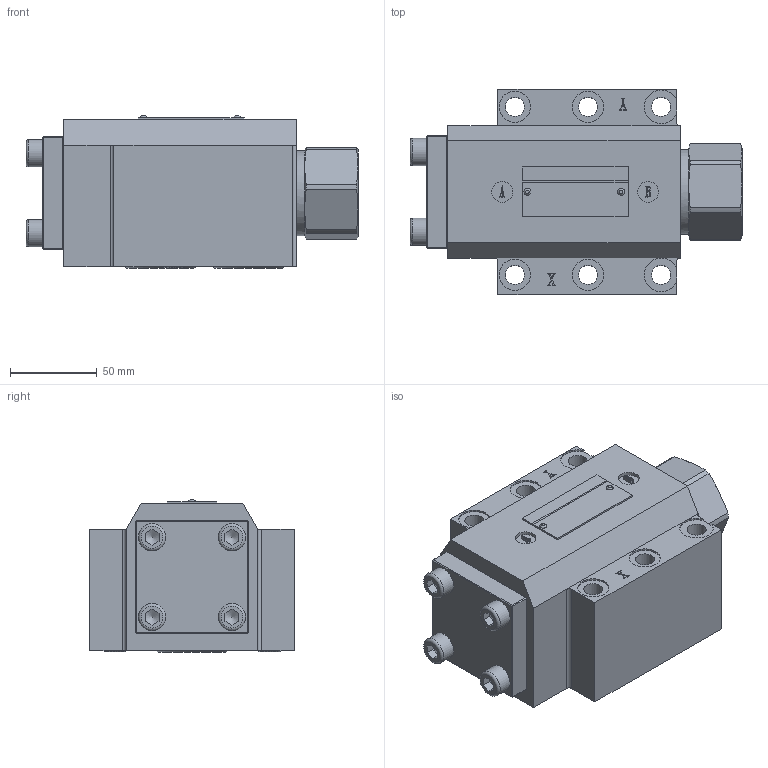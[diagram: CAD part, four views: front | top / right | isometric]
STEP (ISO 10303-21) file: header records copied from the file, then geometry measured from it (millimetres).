
FILE_DESCRIPTION(/* description */ (''),/* implementation_level */ '2;1');
FILE_NAME(/* name */ 'SVSL30P-1(2)-4XJ液控单向阀.prt.stp',/* time_stamp */ '2022-03-30T19:21:04+08:00',/* author */ (''),/* organization */ (''),/* preprocessor_version */ 'ST-DEVELOPER v16.7',/* originating_system */ 'SIEMENS PLM Software NX 12.0',/* authorisation */ '');
FILE_SCHEMA (('AUTOMOTIVE_DESIGN { 1 0 10303 214 3 1 1 1 }'));
Products named in the file (1): SVSL30P-1(2)-4XJ液控单向阀
Bounding box: 191.24 x 118 x 87.63 mm (x, y, z)
Volume: 1230237 mm3; surface area: 150599.7 mm2
Topology: 14 solids, 23 shells, 589 faces, 1463 edges, 941 vertices
Faces by surface type: plane 323, cylinder 164, cone 40, bspline 30, extrusion 18, torus 12, sphere 2
Full cylindrical faces by diameter (mm): 1.8 x6, 5 x2, 8.5 x44, 10.8 x4, 11 x6, 12 x2, 12.2 x2, 15.73 x4, 18 x4, 24.6 x1, 37 x1, 41 x2, 41.8 x1, 44.8 x2, 46 x2, 48.4 x1, 49 x2
Entity records: 46232 total; most frequent: CARTESIAN_POINT 32812, ORIENTED_EDGE 2414, DIRECTION 2229, EDGE_CURVE 1207, VERTEX_POINT 833, VECTOR 743, AXIS2_PLACEMENT_3D 743, LINE 725
